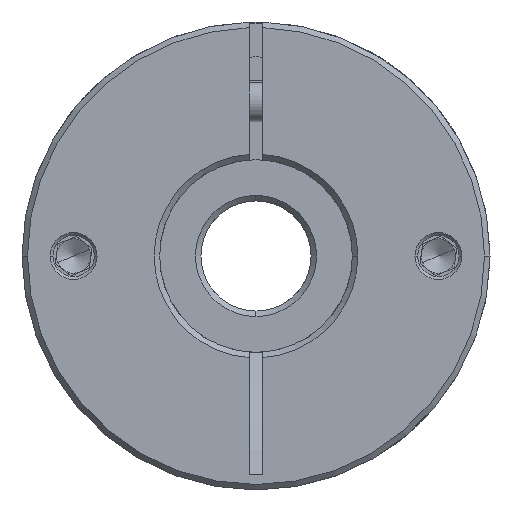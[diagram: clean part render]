
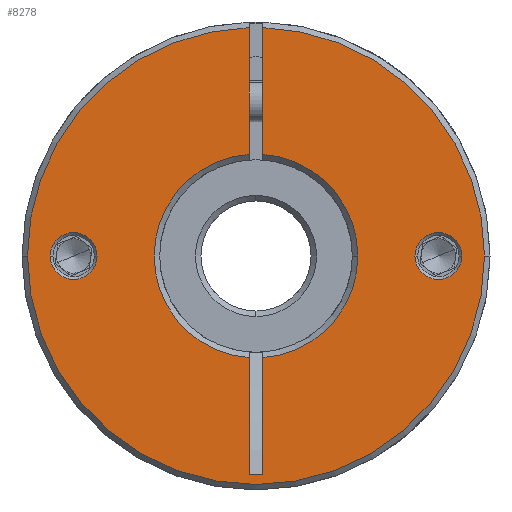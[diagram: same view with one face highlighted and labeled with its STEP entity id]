
A CAD part, front view. The second image highlights one B-rep face of the part: STEP entity #8278.
In plain terms, the highlighted planar face has unit normal (0, -1, 0).
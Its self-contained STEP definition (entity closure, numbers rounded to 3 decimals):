
#149 = LINE ( 'NONE', #615, #10029 ) ;
#209 = DIRECTION ( 'NONE',  ( 0., 1., 0. ) ) ;
#289 = DIRECTION ( 'NONE',  ( 1., 0., 0. ) ) ;
#470 = AXIS2_PLACEMENT_3D ( 'NONE', #10626, #209, #2336 ) ;
#498 = VERTEX_POINT ( 'NONE', #13049 ) ;
#615 = CARTESIAN_POINT ( 'NONE',  ( -3.735, -47.045, 68. ) ) ;
#699 = CARTESIAN_POINT ( 'NONE',  ( -2.735, -47.045, 68. ) ) ;
#806 = VERTEX_POINT ( 'NONE', #12608 ) ;
#828 = CIRCLE ( 'NONE', #4093, 14.8 ) ;
#902 = CARTESIAN_POINT ( 'NONE',  ( -2.735, -47.045, 68. ) ) ;
#999 = DIRECTION ( 'NONE',  ( 1., 0., 0. ) ) ;
#1168 = EDGE_CURVE ( 'NONE', #8784, #806, #10263, .T. ) ;
#1223 = CARTESIAN_POINT ( 'NONE',  ( -3.735, -47.045, 82.766 ) ) ;
#1338 = CARTESIAN_POINT ( 'NONE',  ( -3.735, -47.045, 53.234 ) ) ;
#1486 = VERTEX_POINT ( 'NONE', #7172 ) ;
#1616 = CIRCLE ( 'NONE', #2394, 3.4 ) ;
#1817 = DIRECTION ( 'NONE',  ( 0., 0., -1. ) ) ;
#1825 = CIRCLE ( 'NONE', #6604, 3.4 ) ;
#1875 = DIRECTION ( 'NONE',  ( 0., 1., 0. ) ) ;
#2097 = VECTOR ( 'NONE', #4349, 1000. ) ;
#2187 = DIRECTION ( 'NONE',  ( 1., 0., 0. ) ) ;
#2336 = DIRECTION ( 'NONE',  ( 1., 0., 0. ) ) ;
#2394 = AXIS2_PLACEMENT_3D ( 'NONE', #6441, #11628, #5387 ) ;
#2405 = ORIENTED_EDGE ( 'NONE', *, *, #9720, .T. ) ;
#2587 = VECTOR ( 'NONE', #13105, 1000. ) ;
#2750 = VECTOR ( 'NONE', #4748, 1000. ) ;
#2770 = EDGE_CURVE ( 'NONE', #8577, #5671, #6974, .T. ) ;
#3058 = EDGE_LOOP ( 'NONE', ( #8851, #7936, #12641, #10940, #3440, #5953, #10298, #2405, #8356, #6683, #7449 ) ) ;
#3071 = EDGE_CURVE ( 'NONE', #5423, #13480, #1616, .T. ) ;
#3109 = FACE_BOUND ( 'NONE', #8319, .T. ) ;
#3205 = DIRECTION ( 'NONE',  ( 0., 1., 0. ) ) ;
#3326 = ORIENTED_EDGE ( 'NONE', *, *, #4605, .T. ) ;
#3440 = ORIENTED_EDGE ( 'NONE', *, *, #1168, .T. ) ;
#3463 = CARTESIAN_POINT ( 'NONE',  ( -2.735, -47.045, 68. ) ) ;
#3648 = VERTEX_POINT ( 'NONE', #1338 ) ;
#3770 = CIRCLE ( 'NONE', #9444, 33.2 ) ;
#3829 = CARTESIAN_POINT ( 'NONE',  ( 20.365, -47.045, 68. ) ) ;
#3932 = DIRECTION ( 'NONE',  ( 1., 0., 0. ) ) ;
#4040 = CIRCLE ( 'NONE', #470, 3.4 ) ;
#4093 = AXIS2_PLACEMENT_3D ( 'NONE', #13310, #1875, #3932 ) ;
#4136 = CARTESIAN_POINT ( 'NONE',  ( 12.065, -47.045, 68. ) ) ;
#4253 = CARTESIAN_POINT ( 'NONE',  ( -29.235, -47.045, 68. ) ) ;
#4265 = AXIS2_PLACEMENT_3D ( 'NONE', #902, #11396, #999 ) ;
#4319 = CARTESIAN_POINT ( 'NONE',  ( -2.735, -47.045, 68. ) ) ;
#4349 = DIRECTION ( 'NONE',  ( 0., 0., -1. ) ) ;
#4416 = DIRECTION ( 'NONE',  ( 0., -1., 0. ) ) ;
#4605 = EDGE_CURVE ( 'NONE', #13480, #5423, #6768, .T. ) ;
#4661 = CARTESIAN_POINT ( 'NONE',  ( -3.735, -47.045, 36.279 ) ) ;
#4707 = CARTESIAN_POINT ( 'NONE',  ( -3.735, -47.045, 68. ) ) ;
#4748 = DIRECTION ( 'NONE',  ( 0., 0., -1. ) ) ;
#4799 = DIRECTION ( 'NONE',  ( 1., 0., 0. ) ) ;
#4968 = EDGE_LOOP ( 'NONE', ( #3326, #9438 ) ) ;
#5019 = AXIS2_PLACEMENT_3D ( 'NONE', #5961, #12186, #10032 ) ;
#5200 = CIRCLE ( 'NONE', #5019, 14.8 ) ;
#5202 = DIRECTION ( 'NONE',  ( 0., -1., 0. ) ) ;
#5387 = DIRECTION ( 'NONE',  ( 1., 0., 0. ) ) ;
#5389 = ORIENTED_EDGE ( 'NONE', *, *, #10352, .T. ) ;
#5423 = VERTEX_POINT ( 'NONE', #3829 ) ;
#5671 = VERTEX_POINT ( 'NONE', #8243 ) ;
#5894 = CARTESIAN_POINT ( 'NONE',  ( 23.765, -47.045, 68. ) ) ;
#5937 = DIRECTION ( 'NONE',  ( 0., 1., 0. ) ) ;
#5953 = ORIENTED_EDGE ( 'NONE', *, *, #7389, .T. ) ;
#5961 = CARTESIAN_POINT ( 'NONE',  ( -2.735, -47.045, 68. ) ) ;
#6152 = CARTESIAN_POINT ( 'NONE',  ( -2.735, -47.045, 68. ) ) ;
#6358 = CIRCLE ( 'NONE', #7208, 33.2 ) ;
#6441 = CARTESIAN_POINT ( 'NONE',  ( 23.765, -47.045, 68. ) ) ;
#6512 = FACE_OUTER_BOUND ( 'NONE', #3058, .T. ) ;
#6604 = AXIS2_PLACEMENT_3D ( 'NONE', #4253, #11475, #12531 ) ;
#6683 = ORIENTED_EDGE ( 'NONE', *, *, #12636, .F. ) ;
#6768 = CIRCLE ( 'NONE', #11544, 3.4 ) ;
#6974 = CIRCLE ( 'NONE', #9663, 33.2 ) ;
#7153 = EDGE_CURVE ( 'NONE', #1486, #7382, #1825, .T. ) ;
#7172 = CARTESIAN_POINT ( 'NONE',  ( -25.835, -47.045, 68. ) ) ;
#7208 = AXIS2_PLACEMENT_3D ( 'NONE', #4319, #5202, #2187 ) ;
#7382 = VERTEX_POINT ( 'NONE', #12900 ) ;
#7389 = EDGE_CURVE ( 'NONE', #806, #8266, #5200, .T. ) ;
#7449 = ORIENTED_EDGE ( 'NONE', *, *, #10252, .T. ) ;
#7484 = EDGE_CURVE ( 'NONE', #8266, #498, #828, .T. ) ;
#7581 = EDGE_CURVE ( 'NONE', #10103, #8784, #3770, .T. ) ;
#7744 = LINE ( 'NONE', #4707, #2750 ) ;
#7749 = CARTESIAN_POINT ( 'NONE',  ( -1.735, -47.045, 68. ) ) ;
#7925 = EDGE_CURVE ( 'NONE', #5671, #10103, #6358, .T. ) ;
#7936 = ORIENTED_EDGE ( 'NONE', *, *, #2770, .T. ) ;
#7956 = DIRECTION ( 'NONE',  ( 0., -1., 0. ) ) ;
#8243 = CARTESIAN_POINT ( 'NONE',  ( -35.935, -47.045, 68. ) ) ;
#8262 = DIRECTION ( 'NONE',  ( 1., 0., 0. ) ) ;
#8266 = VERTEX_POINT ( 'NONE', #4136 ) ;
#8278 = ADVANCED_FACE ( 'NONE', ( #10731, #3109, #6512 ), #11265, .T. ) ;
#8319 = EDGE_LOOP ( 'NONE', ( #9169, #5389 ) ) ;
#8356 = ORIENTED_EDGE ( 'NONE', *, *, #10033, .T. ) ;
#8555 = LINE ( 'NONE', #4661, #2587 ) ;
#8577 = VERTEX_POINT ( 'NONE', #10836 ) ;
#8784 = VERTEX_POINT ( 'NONE', #10266 ) ;
#8849 = DIRECTION ( 'NONE',  ( 1., 0., 0. ) ) ;
#8851 = ORIENTED_EDGE ( 'NONE', *, *, #12621, .F. ) ;
#9169 = ORIENTED_EDGE ( 'NONE', *, *, #7153, .T. ) ;
#9431 = CARTESIAN_POINT ( 'NONE',  ( -3.735, -47.045, 36.279 ) ) ;
#9438 = ORIENTED_EDGE ( 'NONE', *, *, #3071, .T. ) ;
#9444 = AXIS2_PLACEMENT_3D ( 'NONE', #699, #7956, #8849 ) ;
#9663 = AXIS2_PLACEMENT_3D ( 'NONE', #3463, #4416, #289 ) ;
#9720 = EDGE_CURVE ( 'NONE', #498, #11665, #12167, .T. ) ;
#10029 = VECTOR ( 'NONE', #12111, 1000. ) ;
#10032 = DIRECTION ( 'NONE',  ( 1., 0., 0. ) ) ;
#10033 = EDGE_CURVE ( 'NONE', #11665, #10454, #8555, .T. ) ;
#10103 = VERTEX_POINT ( 'NONE', #12159 ) ;
#10252 = EDGE_CURVE ( 'NONE', #3648, #12407, #12668, .T. ) ;
#10263 = LINE ( 'NONE', #7749, #13403 ) ;
#10266 = CARTESIAN_POINT ( 'NONE',  ( -1.735, -47.045, 101.185 ) ) ;
#10298 = ORIENTED_EDGE ( 'NONE', *, *, #7484, .T. ) ;
#10352 = EDGE_CURVE ( 'NONE', #7382, #1486, #4040, .T. ) ;
#10454 = VERTEX_POINT ( 'NONE', #9431 ) ;
#10455 = CARTESIAN_POINT ( 'NONE',  ( -1.735, -47.045, 36.279 ) ) ;
#10626 = CARTESIAN_POINT ( 'NONE',  ( -29.235, -47.045, 68. ) ) ;
#10731 = FACE_BOUND ( 'NONE', #4968, .T. ) ;
#10836 = CARTESIAN_POINT ( 'NONE',  ( -3.735, -47.045, 101.185 ) ) ;
#10910 = AXIS2_PLACEMENT_3D ( 'NONE', #6152, #3205, #8262 ) ;
#10940 = ORIENTED_EDGE ( 'NONE', *, *, #7581, .T. ) ;
#11265 = PLANE ( 'NONE',  #4265 ) ;
#11396 = DIRECTION ( 'NONE',  ( 0., -1., 0. ) ) ;
#11475 = DIRECTION ( 'NONE',  ( 0., 1., 0. ) ) ;
#11524 = CARTESIAN_POINT ( 'NONE',  ( -1.735, -47.045, 68. ) ) ;
#11544 = AXIS2_PLACEMENT_3D ( 'NONE', #5894, #5937, #4799 ) ;
#11628 = DIRECTION ( 'NONE',  ( 0., 1., 0. ) ) ;
#11665 = VERTEX_POINT ( 'NONE', #10455 ) ;
#12111 = DIRECTION ( 'NONE',  ( 0., 0., -1. ) ) ;
#12159 = CARTESIAN_POINT ( 'NONE',  ( 30.465, -47.045, 68. ) ) ;
#12167 = LINE ( 'NONE', #11524, #2097 ) ;
#12186 = DIRECTION ( 'NONE',  ( 0., 1., 0. ) ) ;
#12407 = VERTEX_POINT ( 'NONE', #1223 ) ;
#12531 = DIRECTION ( 'NONE',  ( 1., 0., 0. ) ) ;
#12608 = CARTESIAN_POINT ( 'NONE',  ( -1.735, -47.045, 82.766 ) ) ;
#12621 = EDGE_CURVE ( 'NONE', #8577, #12407, #149, .T. ) ;
#12636 = EDGE_CURVE ( 'NONE', #3648, #10454, #7744, .T. ) ;
#12641 = ORIENTED_EDGE ( 'NONE', *, *, #7925, .T. ) ;
#12668 = CIRCLE ( 'NONE', #10910, 14.8 ) ;
#12900 = CARTESIAN_POINT ( 'NONE',  ( -32.635, -47.045, 68. ) ) ;
#13049 = CARTESIAN_POINT ( 'NONE',  ( -1.735, -47.045, 53.234 ) ) ;
#13105 = DIRECTION ( 'NONE',  ( -1., 0., 0. ) ) ;
#13123 = CARTESIAN_POINT ( 'NONE',  ( 27.165, -47.045, 68. ) ) ;
#13310 = CARTESIAN_POINT ( 'NONE',  ( -2.735, -47.045, 68. ) ) ;
#13403 = VECTOR ( 'NONE', #1817, 1000. ) ;
#13480 = VERTEX_POINT ( 'NONE', #13123 ) ;
